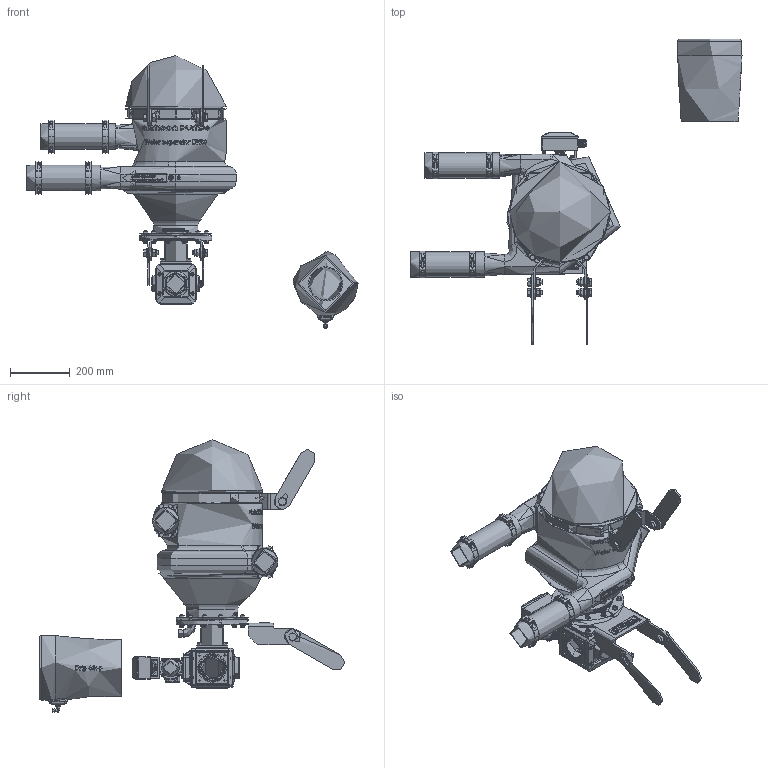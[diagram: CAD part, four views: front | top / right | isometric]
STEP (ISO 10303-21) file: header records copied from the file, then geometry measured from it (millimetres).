
FILE_DESCRIPTION(/* description */ (''),/* implementation_level */ '2;1');
FILE_NAME(/* name */ '1700114C.stp',/* time_stamp */ '2026-07-07T09:28:04+02:00',/* author */ ('DH'),/* organization */ (''),/* preprocessor_version */ 'ST-DEVELOPER v20',/* originating_system */ 'Autodesk Inventor 2025',/* authorisation */ '');
FILE_SCHEMA (('AUTOMOTIVE_DESIGN { 1 0 10303 214 3 1 1 }'));
Length unit declared in the file: millimetre
Products named in the file (1): 1700114C
Bounding box: 1108.13 x 1020.76 x 909.75 mm (x, y, z)
Topology: 10 solids, 11 shells, 13107 faces, 34102 edges, 21878 vertices
Faces by surface type: plane 5619, bspline 4084, cylinder 1903, cone 783, torus 635, sphere 83
Full cylindrical faces by diameter (mm): 3.3 x4, 3.8 x4, 4 x2, 4.134 x6, 4.917 x9, 6 x25, 6.5 x8, 8 x18, 8.376 x16, 8.4 x8, 8.5 x4, 8.566 x1, 8.88 x4, 9.188 x2, 10 x20, 10.5 x2, 11 x1, 11.5 x1, 12 x14, 13 x20, 13.3 x4, 13.835 x1, 14 x12, 14.376 x1, 14.9 x1, 15.4 x2, 16 x11, 16.5 x2, 17 x31, 17.9 x1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
Entity records: 519083 total; most frequent: CARTESIAN_POINT 212395, ORIENTED_EDGE 67946, DIRECTION 49153, EDGE_CURVE 33973, VERTEX_POINT 21877, LINE 17283, VECTOR 17283, AXIS2_PLACEMENT_3D 15935
